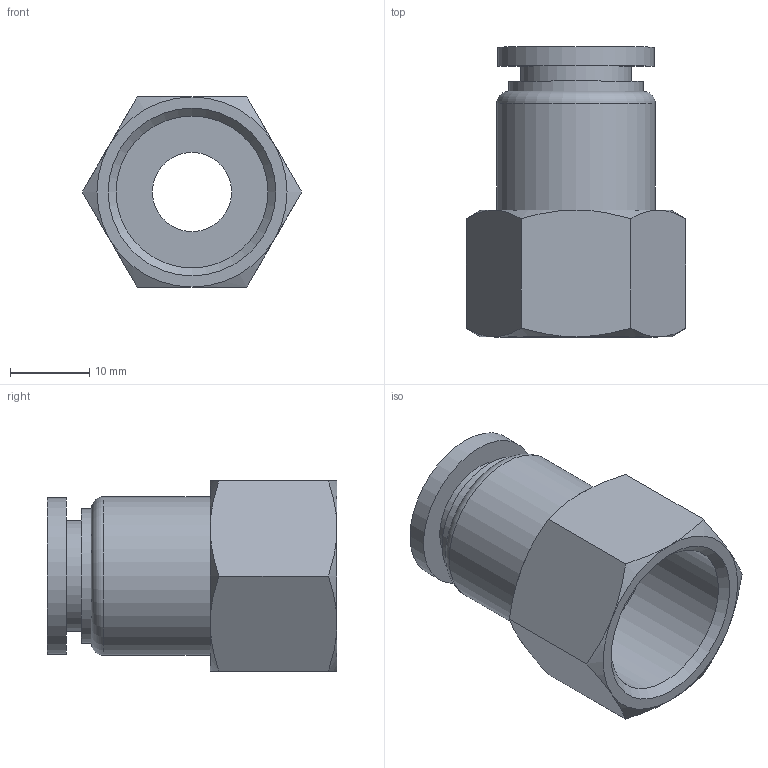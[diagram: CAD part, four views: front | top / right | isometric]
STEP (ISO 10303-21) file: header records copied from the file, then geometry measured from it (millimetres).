
FILE_DESCRIPTION(/* description */ (''),/* implementation_level */ '2;1');
FILE_NAME(/* name */ 'S:\_Tecnico\ArchivioUT\_Disegni3D ingombri\DISEGNI 3D per ingombri\RP\RP 52\RP521212.stp',/* time_stamp */ '2019-07-29T08:40:37+02:00',/* author */ ('ufficiotecnico3'),/* organization */ (''),/* preprocessor_version */ 'ST-DEVELOPER v18',/* originating_system */ 'Autodesk Inventor 2020',/* authorisation */ '');
FILE_SCHEMA (('AUTOMOTIVE_DESIGN { 1 0 10303 214 3 1 1 }'));
Length unit declared in the file: millimetre
Products named in the file (1): RP521212
Bounding box: 27.71 x 36.6 x 24 mm (x, y, z)
Volume: 7363.2 mm3; surface area: 5290.9 mm2
Topology: 1 solids, 1 shells, 34 faces, 82 edges, 55 vertices
Faces by surface type: cone 13, plane 13, cylinder 7, torus 1
Full cylindrical faces by diameter (mm): 10 x1, 12 x1, 14 x1, 17 x1, 19.172 x1, 19.8 x1, 20 x1
Entity records: 1039 total; most frequent: CARTESIAN_POINT 220, DIRECTION 172, ORIENTED_EDGE 164, EDGE_CURVE 82, AXIS2_PLACEMENT_3D 79, VERTEX_POINT 55, CIRCLE 44, EDGE_LOOP 41
